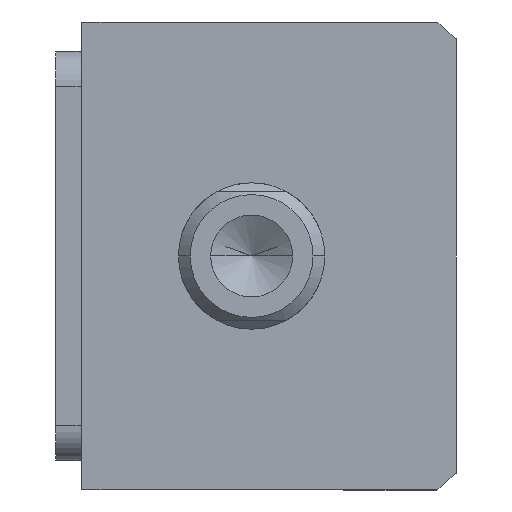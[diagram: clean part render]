
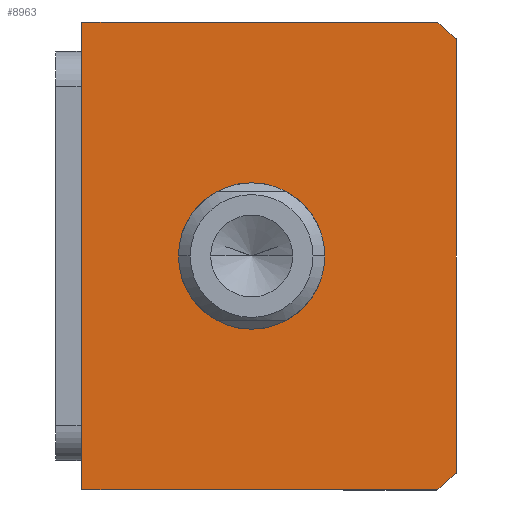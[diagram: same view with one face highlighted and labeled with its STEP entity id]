
A CAD part, front view. The second image highlights one B-rep face of the part: STEP entity #8963.
In plain terms, the highlighted planar face has unit normal (0, -1, 0) as drawn and (0, 0, -1) by its records, which use the part's own axes.
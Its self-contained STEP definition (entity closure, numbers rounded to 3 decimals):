
#500 = VECTOR ( 'NONE', #10516, 1000. ) ;
#569 = DIRECTION ( 'NONE',  ( 1., 0., 0. ) ) ;
#592 = DIRECTION ( 'NONE',  ( 0., 0., 1. ) ) ;
#698 = VERTEX_POINT ( 'NONE', #10076 ) ;
#1081 = ORIENTED_EDGE ( 'NONE', *, *, #4449, .F. ) ;
#1365 = FACE_BOUND ( 'NONE', #9211, .T. ) ;
#1804 = VERTEX_POINT ( 'NONE', #10070 ) ;
#1936 = DIRECTION ( 'NONE',  ( 0., 0., 1. ) ) ;
#2148 = PLANE ( 'NONE',  #2615 ) ;
#2204 = CIRCLE ( 'NONE', #2902, 51. ) ;
#2318 = ORIENTED_EDGE ( 'NONE', *, *, #4102, .F. ) ;
#2351 = CARTESIAN_POINT ( 'NONE',  ( -40., -11.507, 0. ) ) ;
#2440 = LINE ( 'NONE', #3885, #4849 ) ;
#2596 = VERTEX_POINT ( 'NONE', #8506 ) ;
#2605 = VERTEX_POINT ( 'NONE', #7863 ) ;
#2615 = AXIS2_PLACEMENT_3D ( 'NONE', #3756, #5393, #569 ) ;
#2862 = LINE ( 'NONE', #2351, #500 ) ;
#2902 = AXIS2_PLACEMENT_3D ( 'NONE', #4218, #9966, #5041 ) ;
#3591 = EDGE_CURVE ( 'NONE', #6364, #1804, #5652, .T. ) ;
#3756 = CARTESIAN_POINT ( 'NONE',  ( 0., 0., 0. ) ) ;
#3776 = CARTESIAN_POINT ( 'NONE',  ( -40., -75.507, 0. ) ) ;
#3885 = CARTESIAN_POINT ( 'NONE',  ( 40., -11.507, 0. ) ) ;
#4102 = EDGE_CURVE ( 'NONE', #7411, #2596, #5523, .T. ) ;
#4218 = CARTESIAN_POINT ( 'NONE',  ( 0., -40.507, 0. ) ) ;
#4449 = EDGE_CURVE ( 'NONE', #5846, #7411, #6160, .T. ) ;
#4468 = CARTESIAN_POINT ( 'NONE',  ( 0., -40.507, 0. ) ) ;
#4713 = ORIENTED_EDGE ( 'NONE', *, *, #9881, .F. ) ;
#4849 = VECTOR ( 'NONE', #9607, 1000. ) ;
#5015 = EDGE_CURVE ( 'NONE', #2605, #5846, #2204, .T. ) ;
#5041 = DIRECTION ( 'NONE',  ( 1., 0., 0. ) ) ;
#5204 = EDGE_CURVE ( 'NONE', #1804, #6364, #6030, .T. ) ;
#5308 = DIRECTION ( 'NONE',  ( 1., 0., 0. ) ) ;
#5351 = CARTESIAN_POINT ( 'NONE',  ( 12.5, -40.507, 0. ) ) ;
#5393 = DIRECTION ( 'NONE',  ( 0., 0., 1. ) ) ;
#5425 = CARTESIAN_POINT ( 'NONE',  ( 0., -40.507, 0. ) ) ;
#5498 = AXIS2_PLACEMENT_3D ( 'NONE', #4468, #10230, #5308 ) ;
#5502 = ORIENTED_EDGE ( 'NONE', *, *, #7011, .F. ) ;
#5523 = CIRCLE ( 'NONE', #5498, 51. ) ;
#5652 = CIRCLE ( 'NONE', #10198, 12.5 ) ;
#5846 = VERTEX_POINT ( 'NONE', #9433 ) ;
#5963 = CARTESIAN_POINT ( 'NONE',  ( -40., -11.507, 0. ) ) ;
#6030 = CIRCLE ( 'NONE', #6200, 12.5 ) ;
#6152 = ORIENTED_EDGE ( 'NONE', *, *, #7954, .F. ) ;
#6160 = LINE ( 'NONE', #3776, #10276 ) ;
#6200 = AXIS2_PLACEMENT_3D ( 'NONE', #6803, #1936, #7623 ) ;
#6241 = DIRECTION ( 'NONE',  ( 1., 0., 0. ) ) ;
#6270 = VERTEX_POINT ( 'NONE', #8977 ) ;
#6364 = VERTEX_POINT ( 'NONE', #5351 ) ;
#6503 = ORIENTED_EDGE ( 'NONE', *, *, #5015, .F. ) ;
#6803 = CARTESIAN_POINT ( 'NONE',  ( 0., -40.507, 0. ) ) ;
#6915 = ORIENTED_EDGE ( 'NONE', *, *, #5204, .T. ) ;
#7011 = EDGE_CURVE ( 'NONE', #698, #6270, #8220, .T. ) ;
#7273 = ORIENTED_EDGE ( 'NONE', *, *, #3591, .T. ) ;
#7411 = VERTEX_POINT ( 'NONE', #9583 ) ;
#7590 = DIRECTION ( 'NONE',  ( -1., 0., 0. ) ) ;
#7623 = DIRECTION ( 'NONE',  ( 1., 0., 0. ) ) ;
#7720 = EDGE_LOOP ( 'NONE', ( #6503, #6152, #5502, #4713, #2318, #1081 ) ) ;
#7863 = CARTESIAN_POINT ( 'NONE',  ( -40., -72.145, 0. ) ) ;
#7954 = EDGE_CURVE ( 'NONE', #6270, #2605, #2862, .T. ) ;
#8220 = LINE ( 'NONE', #5963, #10188 ) ;
#8506 = CARTESIAN_POINT ( 'NONE',  ( 40., -72.145, 0. ) ) ;
#8963 = ADVANCED_FACE ( 'NONE', ( #1365, #9755 ), #2148, .F. ) ;
#8977 = CARTESIAN_POINT ( 'NONE',  ( -40., -11.507, 0. ) ) ;
#9211 = EDGE_LOOP ( 'NONE', ( #7273, #6915 ) ) ;
#9433 = CARTESIAN_POINT ( 'NONE',  ( -37.094, -75.507, 0. ) ) ;
#9466 = DIRECTION ( 'NONE',  ( 1., 0., 0. ) ) ;
#9583 = CARTESIAN_POINT ( 'NONE',  ( 37.094, -75.507, 0. ) ) ;
#9607 = DIRECTION ( 'NONE',  ( 0., 1., 0. ) ) ;
#9755 = FACE_OUTER_BOUND ( 'NONE', #7720, .T. ) ;
#9881 = EDGE_CURVE ( 'NONE', #2596, #698, #2440, .T. ) ;
#9966 = DIRECTION ( 'NONE',  ( 0., 0., 1. ) ) ;
#10070 = CARTESIAN_POINT ( 'NONE',  ( -12.5, -40.507, 0. ) ) ;
#10076 = CARTESIAN_POINT ( 'NONE',  ( 40., -11.507, 0. ) ) ;
#10188 = VECTOR ( 'NONE', #7590, 1000. ) ;
#10198 = AXIS2_PLACEMENT_3D ( 'NONE', #5425, #592, #6241 ) ;
#10230 = DIRECTION ( 'NONE',  ( 0., 0., 1. ) ) ;
#10276 = VECTOR ( 'NONE', #9466, 1000. ) ;
#10516 = DIRECTION ( 'NONE',  ( 0., -1., 0. ) ) ;
